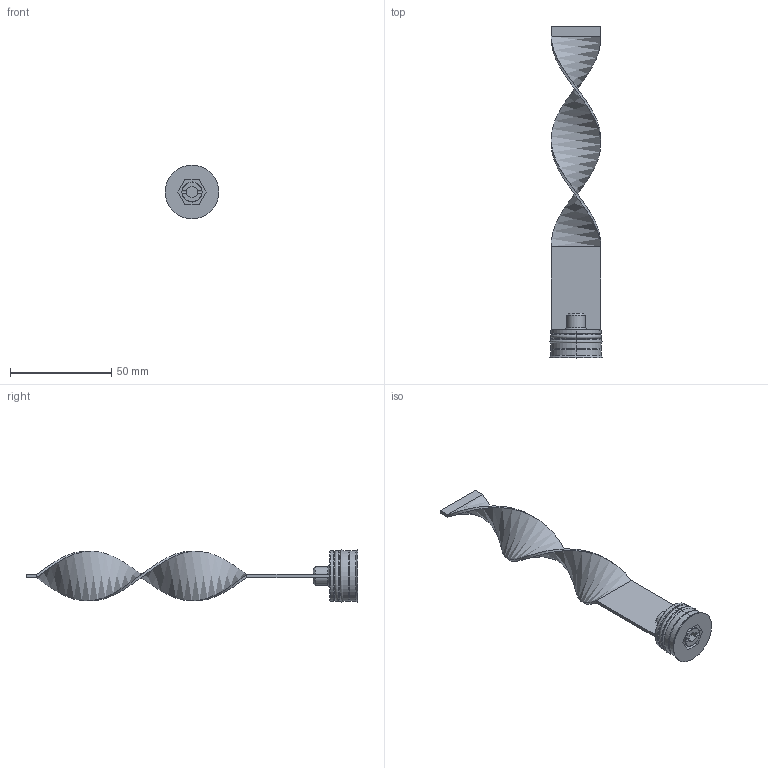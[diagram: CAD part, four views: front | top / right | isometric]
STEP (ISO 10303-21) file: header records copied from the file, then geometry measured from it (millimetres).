
FILE_DESCRIPTION (( 'STEP AP203' ), '1' );
FILE_NAME ('RLS-25Fx150-24,5.STEP', '2015-12-10T15:33:49', ( 'Balzi' ), ( '' ), 'SwSTEP 2.0', 'SolidWorks 2015', '' );
FILE_SCHEMA (( 'CONFIG_CONTROL_DESIGN' ));
Length unit declared in the file: millimetre
Products named in the file (1): RLS-25Fx150-24,5
Bounding box: 26.5 x 164 x 26.5 mm (x, y, z)
Volume: 12430.5 mm3; surface area: 11186.4 mm2
Topology: 1 solids, 1 shells, 83 faces, 193 edges, 117 vertices
Faces by surface type: plane 35, cone 19, cylinder 17, torus 8, bspline 4
Entity records: 3229 total; most frequent: CARTESIAN_POINT 1264, DIRECTION 406, ORIENTED_EDGE 386, EDGE_CURVE 193, AXIS2_PLACEMENT_3D 151, VERTEX_POINT 117, VECTOR 104, LINE 104
